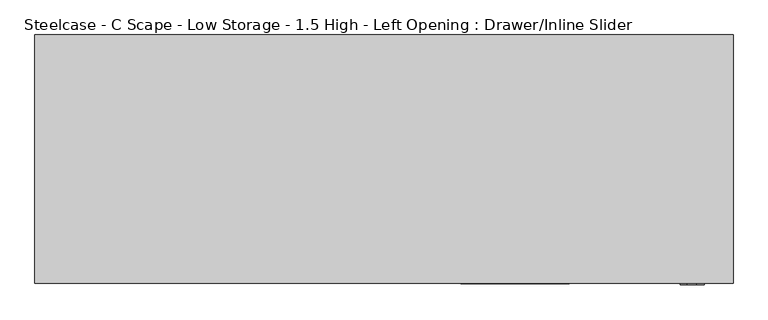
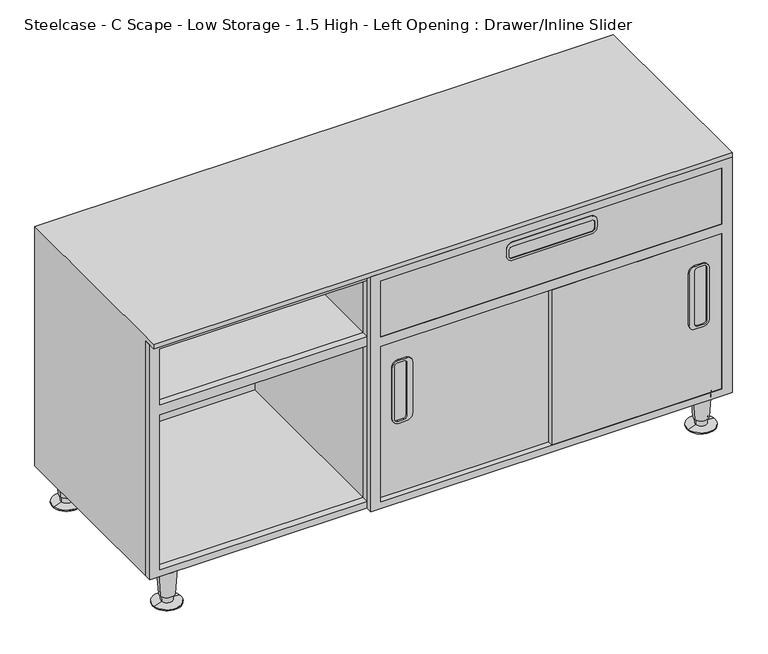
"""IFC4 building model written with IfcOpenShell, lengths in millimetres: furniture geometry, Steelcase - C Scape - Low Storage - 1.5 High - Left Opening : Drawer/Inline Slider."""

from ifc_helpers import new_model, si_unit, point, frame, frame_2d, origin, place, context, project, spatial, polyline, circle_curve, trimmed, segment, composite_curve, outline, extrude, faceted_brep, source, transform, mapped, element, save
from ifc_brep_helpers import plane_surface, cylinder_surface, revolved_surface, advanced_brep


def steelcase_c_scape_low_storage_1_5_high_left_opening_drawer_a826de2d(model_context):
    return source(origin(), model_context, "Body", "SolidModel", [
        extrude(outline(composite_curve([segment(trimmed(circle_curve(frame_2d((373.5986349, 1154.9285742)), 12.6992249), [point((373.5986349, 1167.6277991))], [point((386.2978598, 1154.9285742))], False, "CARTESIAN"), True, "CONTINUOUS"), segment(polyline([(386.2978598, 1154.9285742), (386.2978598, 1138.036582)]), True, "CONTINUOUS"), segment(trimmed(circle_curve(frame_2d((373.5986349, 1138.036582)), 12.6992249), [point((386.2978598, 1138.036582))], [point((373.5986349, 1125.3373572))], False, "CARTESIAN"), True, "CONTINUOUS"), segment(polyline([(373.5986349, 1125.3373572), (259.2970725, 1125.3373572)]), True, "CONTINUOUS"), segment(trimmed(circle_curve(frame_2d((259.2970725, 1138.036582)), 12.6992249), [point((259.2970725, 1125.3373572))], [point((246.5978477, 1138.036582))], False, "CARTESIAN"), True, "CONTINUOUS"), segment(polyline([(246.5978477, 1138.036582), (246.5978477, 1154.9285742)]), True, "CONTINUOUS"), segment(trimmed(circle_curve(frame_2d((259.2970725, 1154.9285742)), 12.6992249), [point((246.5978477, 1154.9285742))], [point((259.2970725, 1167.6277991))], False, "CARTESIAN"), True, "CONTINUOUS"), segment(polyline([(259.2970725, 1167.6277991), (373.5986349, 1167.6277991)]), True, "CONTINUOUS")], self_intersect=False), holes=[composite_curve([segment(trimmed(circle_curve(frame_2d((257.7464949, 1156.4525183)), 6.3499939), [point((257.7464949, 1162.8025122))], [point((251.396501, 1156.4525183))], True, "CARTESIAN"), True, "CONTINUOUS"), segment(polyline([(251.396501, 1156.4525183), (251.396501, 1143.7525122)]), True, "CONTINUOUS"), segment(trimmed(circle_curve(frame_2d((257.7472761, 1143.7525122)), 6.3507751), [point((251.396501, 1143.7525122))], [point((257.7472761, 1137.4017371))], True, "CARTESIAN"), True, "CONTINUOUS"), segment(polyline([(257.7472761, 1137.4017371), (375.0937108, 1137.4017371)]), True, "CONTINUOUS"), segment(trimmed(circle_curve(frame_2d((375.0937108, 1143.7525122)), 6.3507752), [point((375.0937108, 1137.4017371))], [point((381.444486, 1143.7525122))], True, "CARTESIAN"), True, "CONTINUOUS"), segment(polyline([(381.444486, 1143.7525122), (381.444486, 1156.4525364)]), True, "CONTINUOUS"), segment(trimmed(circle_curve(frame_2d((375.0945102, 1156.4525364)), 6.3499758), [point((381.444486, 1156.4525364))], [point((375.0945102, 1162.8025122))], True, "CARTESIAN"), True, "CONTINUOUS"), segment(polyline([(375.0945102, 1162.8025122), (257.7464949, 1162.8025122)]), True, "CONTINUOUS")], self_intersect=False)]), frame((0.0, -436.0336786, 0.0), z_axis=(0.0, 1.0, 0.0), x_axis=(0.0, 0.0, 1.0)), (0.0, 0.0, 1.0), 2.9636786),
        extrude(outline(composite_curve([segment(polyline([(373.5986349, 507.5022009), (259.2970725, 507.5022009)]), True, "CONTINUOUS"), segment(trimmed(circle_curve(frame_2d((259.2970725, 520.2014258)), 12.6992249), [point((259.2970725, 507.5022009))], [point((246.5978477, 520.2014258))], False, "CARTESIAN"), True, "CONTINUOUS"), segment(polyline([(246.5978477, 520.2014258), (246.5978477, 537.093418)]), True, "CONTINUOUS"), segment(trimmed(circle_curve(frame_2d((259.2970725, 537.093418)), 12.6992249), [point((246.5978477, 537.093418))], [point((259.2970725, 549.7926428))], False, "CARTESIAN"), True, "CONTINUOUS"), segment(polyline([(259.2970725, 549.7926428), (373.5986349, 549.7926428)]), True, "CONTINUOUS"), segment(trimmed(circle_curve(frame_2d((373.5986349, 537.093418)), 12.6992249), [point((373.5986349, 549.7926428))], [point((386.2978598, 537.093418))], False, "CARTESIAN"), True, "CONTINUOUS"), segment(polyline([(386.2978598, 537.093418), (386.2978598, 520.2014258)]), True, "CONTINUOUS"), segment(trimmed(circle_curve(frame_2d((373.5986349, 520.2014258)), 12.6992249), [point((386.2978598, 520.2014258))], [point((373.5986349, 507.5022009))], False, "CARTESIAN"), True, "CONTINUOUS")], self_intersect=False), holes=[composite_curve([segment(polyline([(257.7464949, 512.3274878), (375.0945102, 512.3274878)]), True, "CONTINUOUS"), segment(trimmed(circle_curve(frame_2d((375.0945102, 518.6774636)), 6.3499758), [point((375.0945102, 512.3274878))], [point((381.444486, 518.6774636))], True, "CARTESIAN"), True, "CONTINUOUS"), segment(polyline([(381.444486, 518.6774636), (381.444486, 531.3774878)]), True, "CONTINUOUS"), segment(trimmed(circle_curve(frame_2d((375.0937108, 531.3774878)), 6.3507752), [point((381.444486, 531.3774878))], [point((375.0937108, 537.728263))], True, "CARTESIAN"), True, "CONTINUOUS"), segment(polyline([(375.0937108, 537.728263), (257.7472761, 537.7282629)]), True, "CONTINUOUS"), segment(trimmed(circle_curve(frame_2d((257.7472761, 531.3774878)), 6.3507751), [point((257.7472761, 537.7282629))], [point((251.396501, 531.3774878))], True, "CARTESIAN"), True, "CONTINUOUS"), segment(polyline([(251.396501, 531.3774878), (251.396501, 518.6774817)]), True, "CONTINUOUS"), segment(trimmed(circle_curve(frame_2d((257.7464949, 518.6774817)), 6.3499939), [point((251.396501, 518.6774817))], [point((257.7464949, 512.3274878))], True, "CARTESIAN"), True, "CONTINUOUS")], self_intersect=False)]), frame((0.0, -424.7026325, 0.0), z_axis=(0.0, 1.0, 0.0), x_axis=(0.0, 0.0, 1.0)), (0.0, 0.0, 1.0), 3.0582917),
        extrude(outline(polyline([(76.2, 1217.93), (599.4400097, 1217.93), (599.4400097, 457.2), (76.2, 457.2), (76.2, 1217.93)]), holes=[polyline([(91.4201587, 1195.959248), (91.4201587, 478.1549612), (436.8419, 478.1549612), (436.8419, 1195.959248), (91.4201587, 1195.959248)]), polyline([(583.5451587, 478.1549612), (583.5451587, 1195.9717991), (458.7875121, 1195.9717991), (458.7875121, 478.1549612), (583.5451587, 478.1549612)])]), frame((0.0, -433.07, 0.0), z_axis=(0.0, 1.0, 0.0), x_axis=(0.0, 0.0, 1.0)), (0.0, 0.0, 1.0), 13.7159457),
        extrude(outline(polyline([(76.2, 0.0), (76.2, 1217.93), (599.4400097, 1217.93), (599.4400097, 0.0), (76.2, 0.0)]), holes=[polyline([(91.4201587, 20.700907), (436.8419, 20.700907), (436.8419, 457.2), (91.4201587, 457.2), (91.4201587, 20.700907)]), polyline([(583.5451587, 1195.959248), (458.7875121, 1195.959248), (458.7875121, 478.1549612), (583.5451587, 478.1549612), (583.5451587, 1195.959248)]), polyline([(458.7875121, 20.700907), (583.5451587, 20.700907), (583.5451587, 457.2), (458.7875121, 457.2), (458.7875121, 20.700907)]), polyline([(91.4201587, 1195.959248), (91.4201587, 478.1549612), (436.8419, 478.1549612), (436.8419, 1195.959248), (91.4201587, 1195.959248)])]), frame((0.0, -419.3540543, 0.0), z_axis=(0.0, 1.0, 0.0), x_axis=(0.0, 0.0, 1.0)), (0.0, 0.0, 1.0), 14.9860039),
        extrude(outline(composite_curve([segment(trimmed(circle_curve(frame_2d((560.7050073, 755.3322442)), 12.7), [point((573.4050073, 755.3322442))], [point((560.7050073, 742.6322442))], False, "CARTESIAN"), True, "CONTINUOUS"), segment(polyline([(560.7050073, 742.6322442), (546.1000363, 742.6322442)]), True, "CONTINUOUS"), segment(trimmed(circle_curve(frame_2d((546.1000363, 755.3322442)), 12.7), [point((546.1000363, 742.6322442))], [point((533.4000363, 755.3322442))], False, "CARTESIAN"), True, "CONTINUOUS"), segment(polyline([(533.4000363, 755.3322442), (533.4000363, 837.565), (533.4000363, 919.7977558)]), True, "CONTINUOUS"), segment(trimmed(circle_curve(frame_2d((546.1000363, 919.7977558)), 12.7), [point((533.4000363, 919.7977558))], [point((546.1000363, 932.4977558))], False, "CARTESIAN"), True, "CONTINUOUS"), segment(polyline([(546.1000363, 932.4977558), (560.7050073, 932.4977558)]), True, "CONTINUOUS"), segment(trimmed(circle_curve(frame_2d((560.7050073, 919.7977558)), 12.7), [point((560.7050073, 932.4977558))], [point((573.4050073, 919.7977558))], False, "CARTESIAN"), True, "CONTINUOUS"), segment(polyline([(573.4050073, 919.7977558), (573.4050073, 837.565), (573.4050073, 755.3322442)]), True, "CONTINUOUS")], self_intersect=False), holes=[composite_curve([segment(trimmed(circle_curve(frame_2d((557.2760257, 753.8098565)), 6.35), [point((557.2760257, 747.4598565))], [point((563.6260257, 753.8098565))], True, "CARTESIAN"), True, "CONTINUOUS"), segment(polyline([(563.6260257, 753.8098565), (563.6260257, 837.565), (563.6260257, 921.3201435)]), True, "CONTINUOUS"), segment(trimmed(circle_curve(frame_2d((557.2760257, 921.3201435)), 6.35), [point((563.6260257, 921.3201435))], [point((557.2760257, 927.6701435))], True, "CARTESIAN"), True, "CONTINUOUS"), segment(polyline([(557.2760257, 927.6701435), (544.5760136, 927.6701435)]), True, "CONTINUOUS"), segment(trimmed(circle_curve(frame_2d((544.5760136, 921.3201435)), 6.35), [point((544.5760136, 927.6701435))], [point((538.2260136, 921.3201435))], True, "CARTESIAN"), True, "CONTINUOUS"), segment(polyline([(538.2260136, 921.3201435), (538.2260136, 837.565), (538.2260136, 753.8098565)]), True, "CONTINUOUS"), segment(trimmed(circle_curve(frame_2d((544.5760136, 753.8098565)), 6.35), [point((538.2260136, 753.8098565))], [point((544.5760136, 747.4598565))], True, "CARTESIAN"), True, "CONTINUOUS"), segment(polyline([(544.5760136, 747.4598565), (557.2760257, 747.4598565)]), True, "CONTINUOUS")], self_intersect=False)]), frame((0.0, -434.34, 0.0), z_axis=(0.0, 1.0, 0.0), x_axis=(0.0, 0.0, 1.0)), (0.0, 0.0, 1.0), 6.35),
        advanced_brep(
        [(1190.0494568, -31.5218435, 76.2), (1152.3877179, -37.2840847, 76.2), (1171.2185874, -34.4029641, 76.2), (1186.0991088, -32.1262463, 19.05), (1156.3380659, -36.6796819, 19.05), (1183.6695219, -32.4979728, 19.05), (1158.7676529, -36.3079555, 19.05), (1182.9807524, -32.6033544, 5.7545598), (1159.4564224, -36.2025738, 5.7545598), (1200.3296359, -29.9489775, 2.5119506), (1142.1075389, -38.8569507, 2.5119506), (1200.3296359, -29.9489775, 0.0), (1142.1075389, -38.8569507, 0.0), (1171.2185874, -34.4029641, 0.0)],
        [
            (0, 1, circle_curve(frame((1171.2185874, -34.4029641, 76.2), z_axis=(0.0, 0.0, 1.0), x_axis=(0.0, -1.0, 0.0)), 19.05)),
            (1, 2),
            (2, 0),
            (1, 0, circle_curve(frame((1171.2185874, -34.4029641, 76.2), z_axis=(0.0, 0.0, 1.0), x_axis=(0.0, -1.0, 0.0)), 19.05)),
            (3, 4, circle_curve(frame((1171.2185874, -34.4029641, 19.05), z_axis=(0.0, 0.0, 1.0), x_axis=(0.0, -1.0, 0.0)), 15.0536827)),
            (4, 1),
            (0, 3),
            (4, 3, circle_curve(frame((1171.2185874, -34.4029641, 19.05), z_axis=(0.0, 0.0, 1.0), x_axis=(0.0, -1.0, 0.0)), 15.0536827)),
            (5, 6, circle_curve(frame((1171.2185874, -34.4029641, 19.05), z_axis=(0.0, 0.0, 1.0), x_axis=(0.0, -1.0, 0.0)), 12.5958232)),
            (6, 4),
            (3, 5),
            (6, 5, circle_curve(frame((1171.2185874, -34.4029641, 19.05), z_axis=(0.0, 0.0, 1.0), x_axis=(0.0, -1.0, 0.0)), 12.5958232)),
            (7, 8, circle_curve(frame((1171.2185874, -34.4029641, 5.7545598), z_axis=(0.0, 0.0, 1.0), x_axis=(0.0, -1.0, 0.0)), 11.8990387)),
            (8, 6),
            (5, 7),
            (8, 7, circle_curve(frame((1171.2185874, -34.4029641, 5.7545598), z_axis=(0.0, 0.0, 1.0), x_axis=(0.0, -1.0, 0.0)), 11.8990387)),
            (9, 10, circle_curve(frame((1171.2185874, -34.4029641, 2.5119506), z_axis=(0.0, 0.0, 1.0), x_axis=(0.0, -1.0, 0.0)), 29.4498071)),
            (10, 8),
            (7, 9),
            (10, 9, circle_curve(frame((1171.2185874, -34.4029641, 2.5119506), z_axis=(0.0, 0.0, 1.0), x_axis=(0.0, -1.0, 0.0)), 29.4498071)),
            (11, 12, circle_curve(frame((1171.2185874, -34.4029641, 0.0), z_axis=(0.0, 0.0, 1.0), x_axis=(0.0, -1.0, 0.0)), 29.4498071)),
            (12, 10),
            (9, 11),
            (12, 11, circle_curve(frame((1171.2185874, -34.4029641, 0.0), z_axis=(0.0, 0.0, 1.0), x_axis=(0.0, -1.0, 0.0)), 29.4498071)),
            (13, 12),
            (11, 13),
        ],
        [
            plane_surface(frame((1171.2185874, -34.4029641, 76.2), z_axis=(0.0, 0.0, 1.0), x_axis=(0.0, -1.0, 0.0))),
            revolved_surface(polyline([(1171.2185874, -53.4529641, 76.2), (1171.2185874, -49.4566468, 19.05)]), (1171.2185874, -34.4029641, 25.4), (0.0, 0.0, -1.0)),
            plane_surface(frame((1171.2185874, -34.4029641, 19.05), z_axis=(0.0, 0.0, -1.0), x_axis=(0.0, -1.0, 0.0))),
            revolved_surface(polyline([(1171.2185874, -46.9987873, 19.05), (1171.2185874, -46.3020028, 5.7545598)]), (1171.2185874, -34.4029641, 25.4), (0.0, 0.0, -1.0)),
            revolved_surface(polyline([(1171.2185874, -46.3020028, 5.7545598), (1171.2185874, -63.8527712, 2.5119506)]), (1171.2185874, -34.4029641, 25.4), (0.0, 0.0, -1.0)),
            cylinder_surface(frame((1171.2185874, -34.4029641, 25.4), z_axis=(0.0, 0.0, -1.0), x_axis=(0.0, -1.0, 0.0)), 29.4498071),
            plane_surface(frame((1171.2185874, -34.4029641, 0.0), z_axis=(0.0, 0.0, -1.0), x_axis=(0.0, -1.0, 0.0))),
        ],
        [
            (0, [[1, 2, 3]]),
            (0, [[4, -3, -2]]),
            (1, [[5, 6, -1, 7]]),
            (1, [[8, -7, -4, -6]]),
            (2, [[9, 10, -5, 11]]),
            (2, [[12, -11, -8, -10]]),
            (3, [[13, 14, -9, 15]]),
            (3, [[16, -15, -12, -14]]),
            (4, [[17, 18, -13, 19]]),
            (4, [[20, -19, -16, -18]]),
            (5, [[21, 22, -17, 23]]),
            (5, [[24, -23, -20, -22]]),
            (6, [[25, -21, 26]]),
            (6, [[-26, -24, -25]]),
        ],
    ),
        advanced_brep(
        [(1190.0494568, -397.1702762, 76.2), (1152.3877179, -402.9325174, 76.2), (1171.2185874, -400.0513968, 76.2), (1186.0991088, -397.774679, 19.05), (1156.3380659, -402.3281146, 19.05), (1183.6695219, -398.1464055, 19.05), (1158.7676529, -401.9563882, 19.05), (1182.9807524, -398.2517871, 5.7545598), (1159.4564224, -401.8510065, 5.7545598), (1200.3296359, -395.5974102, 2.5119506), (1142.1075389, -404.5053834, 2.5119506), (1200.3296359, -395.5974102, 0.0), (1142.1075389, -404.5053834, 0.0), (1171.2185874, -400.0513968, 0.0)],
        [
            (0, 1, circle_curve(frame((1171.2185874, -400.0513968, 76.2), z_axis=(0.0, 0.0, 1.0), x_axis=(0.0, -1.0, 0.0)), 19.05)),
            (1, 2),
            (2, 0),
            (1, 0, circle_curve(frame((1171.2185874, -400.0513968, 76.2), z_axis=(0.0, 0.0, 1.0), x_axis=(0.0, -1.0, 0.0)), 19.05)),
            (3, 4, circle_curve(frame((1171.2185874, -400.0513968, 19.05), z_axis=(0.0, 0.0, 1.0), x_axis=(0.0, -1.0, 0.0)), 15.0536827)),
            (4, 1),
            (0, 3),
            (4, 3, circle_curve(frame((1171.2185874, -400.0513968, 19.05), z_axis=(0.0, 0.0, 1.0), x_axis=(0.0, -1.0, 0.0)), 15.0536827)),
            (5, 6, circle_curve(frame((1171.2185874, -400.0513968, 19.05), z_axis=(0.0, 0.0, 1.0), x_axis=(0.0, -1.0, 0.0)), 12.5958232)),
            (6, 4),
            (3, 5),
            (6, 5, circle_curve(frame((1171.2185874, -400.0513968, 19.05), z_axis=(0.0, 0.0, 1.0), x_axis=(0.0, -1.0, 0.0)), 12.5958232)),
            (7, 8, circle_curve(frame((1171.2185874, -400.0513968, 5.7545598), z_axis=(0.0, 0.0, 1.0), x_axis=(0.0, -1.0, 0.0)), 11.8990387)),
            (8, 6),
            (5, 7),
            (8, 7, circle_curve(frame((1171.2185874, -400.0513968, 5.7545598), z_axis=(0.0, 0.0, 1.0), x_axis=(0.0, -1.0, 0.0)), 11.8990387)),
            (9, 10, circle_curve(frame((1171.2185874, -400.0513968, 2.5119506), z_axis=(0.0, 0.0, 1.0), x_axis=(0.0, -1.0, 0.0)), 29.4498071)),
            (10, 8),
            (7, 9),
            (10, 9, circle_curve(frame((1171.2185874, -400.0513968, 2.5119506), z_axis=(0.0, 0.0, 1.0), x_axis=(0.0, -1.0, 0.0)), 29.4498071)),
            (11, 12, circle_curve(frame((1171.2185874, -400.0513968, 0.0), z_axis=(0.0, 0.0, 1.0), x_axis=(0.0, -1.0, 0.0)), 29.4498071)),
            (12, 10),
            (9, 11),
            (12, 11, circle_curve(frame((1171.2185874, -400.0513968, 0.0), z_axis=(0.0, 0.0, 1.0), x_axis=(0.0, -1.0, 0.0)), 29.4498071)),
            (13, 12),
            (11, 13),
        ],
        [
            plane_surface(frame((1171.2185874, -400.0513968, 76.2), z_axis=(0.0, 0.0, 1.0), x_axis=(0.0, -1.0, 0.0))),
            revolved_surface(polyline([(1171.2185874, -419.1013968, 76.2), (1171.2185874, -415.1050795, 19.05)]), (1171.2185874, -400.0513968, 25.4), (0.0, 0.0, -1.0)),
            plane_surface(frame((1171.2185874, -400.0513968, 19.05), z_axis=(0.0, 0.0, -1.0), x_axis=(0.0, -1.0, 0.0))),
            revolved_surface(polyline([(1171.2185874, -412.64722, 19.05), (1171.2185874, -411.9504355, 5.7545598)]), (1171.2185874, -400.0513968, 25.4), (0.0, 0.0, -1.0)),
            revolved_surface(polyline([(1171.2185874, -411.9504355, 5.7545598), (1171.2185874, -429.5012039, 2.5119506)]), (1171.2185874, -400.0513968, 25.4), (0.0, 0.0, -1.0)),
            cylinder_surface(frame((1171.2185874, -400.0513968, 25.4), z_axis=(0.0, 0.0, -1.0), x_axis=(0.0, -1.0, 0.0)), 29.4498071),
            plane_surface(frame((1171.2185874, -400.0513968, 0.0), z_axis=(0.0, 0.0, -1.0), x_axis=(0.0, -1.0, 0.0))),
        ],
        [
            (0, [[1, 2, 3]]),
            (0, [[4, -3, -2]]),
            (1, [[5, 6, -1, 7]]),
            (1, [[8, -7, -4, -6]]),
            (2, [[9, 10, -5, 11]]),
            (2, [[12, -11, -8, -10]]),
            (3, [[13, 14, -9, 15]]),
            (3, [[16, -15, -12, -14]]),
            (4, [[17, 18, -13, 19]]),
            (4, [[20, -19, -16, -18]]),
            (5, [[21, 22, -17, 23]]),
            (5, [[24, -23, -20, -22]]),
            (6, [[25, -21, 26]]),
            (6, [[-26, -24, -25]]),
        ],
    ),
        advanced_brep(
        [(65.6621195, -397.1702762, 76.2), (28.0003805, -402.9325174, 76.2), (46.83125, -400.0513968, 76.2), (61.7117714, -397.774679, 19.05), (31.9507286, -402.3281146, 19.05), (59.2821845, -398.1464055, 19.05), (34.3803155, -401.9563882, 19.05), (58.593415, -398.2517871, 5.7545598), (35.069085, -401.8510065, 5.7545598), (75.9422985, -395.5974102, 2.5119506), (17.7202015, -404.5053834, 2.5119506), (75.9422985, -395.5974102, 0.0), (17.7202015, -404.5053834, 0.0), (46.83125, -400.0513968, 0.0)],
        [
            (0, 1, circle_curve(frame((46.83125, -400.0513968, 76.2), z_axis=(0.0, 0.0, 1.0), x_axis=(0.0, -1.0, 0.0)), 19.05)),
            (1, 2),
            (2, 0),
            (1, 0, circle_curve(frame((46.83125, -400.0513968, 76.2), z_axis=(0.0, 0.0, 1.0), x_axis=(0.0, -1.0, 0.0)), 19.05)),
            (3, 4, circle_curve(frame((46.83125, -400.0513968, 19.05), z_axis=(0.0, 0.0, 1.0), x_axis=(0.0, -1.0, 0.0)), 15.0536827)),
            (4, 1),
            (0, 3),
            (4, 3, circle_curve(frame((46.83125, -400.0513968, 19.05), z_axis=(0.0, 0.0, 1.0), x_axis=(0.0, -1.0, 0.0)), 15.0536827)),
            (5, 6, circle_curve(frame((46.83125, -400.0513968, 19.05), z_axis=(0.0, 0.0, 1.0), x_axis=(0.0, -1.0, 0.0)), 12.5958232)),
            (6, 4),
            (3, 5),
            (6, 5, circle_curve(frame((46.83125, -400.0513968, 19.05), z_axis=(0.0, 0.0, 1.0), x_axis=(0.0, -1.0, 0.0)), 12.5958232)),
            (7, 8, circle_curve(frame((46.83125, -400.0513968, 5.7545598), z_axis=(0.0, 0.0, 1.0), x_axis=(0.0, -1.0, 0.0)), 11.8990387)),
            (8, 6),
            (5, 7),
            (8, 7, circle_curve(frame((46.83125, -400.0513968, 5.7545598), z_axis=(0.0, 0.0, 1.0), x_axis=(0.0, -1.0, 0.0)), 11.8990387)),
            (9, 10, circle_curve(frame((46.83125, -400.0513968, 2.5119506), z_axis=(0.0, 0.0, 1.0), x_axis=(0.0, -1.0, 0.0)), 29.4498071)),
            (10, 8),
            (7, 9),
            (10, 9, circle_curve(frame((46.83125, -400.0513968, 2.5119506), z_axis=(0.0, 0.0, 1.0), x_axis=(0.0, -1.0, 0.0)), 29.4498071)),
            (11, 12, circle_curve(frame((46.83125, -400.0513968, 0.0), z_axis=(0.0, 0.0, 1.0), x_axis=(0.0, -1.0, 0.0)), 29.4498071)),
            (12, 10),
            (9, 11),
            (12, 11, circle_curve(frame((46.83125, -400.0513968, 0.0), z_axis=(0.0, 0.0, 1.0), x_axis=(0.0, -1.0, 0.0)), 29.4498071)),
            (13, 12),
            (11, 13),
        ],
        [
            plane_surface(frame((46.83125, -400.0513968, 76.2), z_axis=(0.0, 0.0, 1.0), x_axis=(0.0, -1.0, 0.0))),
            revolved_surface(polyline([(46.83125, -419.1013968, 76.2), (46.83125, -415.1050795, 19.05)]), (46.83125, -400.0513968, 25.4), (0.0, 0.0, -1.0)),
            plane_surface(frame((46.83125, -400.0513968, 19.05), z_axis=(0.0, 0.0, -1.0), x_axis=(0.0, -1.0, 0.0))),
            revolved_surface(polyline([(46.83125, -412.64722, 19.05), (46.83125, -411.9504355, 5.7545598)]), (46.83125, -400.0513968, 25.4), (0.0, 0.0, -1.0)),
            revolved_surface(polyline([(46.83125, -411.9504355, 5.7545598), (46.83125, -429.5012039, 2.5119506)]), (46.83125, -400.0513968, 25.4), (0.0, 0.0, -1.0)),
            cylinder_surface(frame((46.83125, -400.0513968, 25.4), z_axis=(0.0, 0.0, -1.0), x_axis=(0.0, -1.0, 0.0)), 29.4498071),
            plane_surface(frame((46.83125, -400.0513968, 0.0), z_axis=(0.0, 0.0, -1.0), x_axis=(0.0, -1.0, 0.0))),
        ],
        [
            (0, [[1, 2, 3]]),
            (0, [[4, -3, -2]]),
            (1, [[5, 6, -1, 7]]),
            (1, [[8, -7, -4, -6]]),
            (2, [[9, 10, -5, 11]]),
            (2, [[12, -11, -8, -10]]),
            (3, [[13, 14, -9, 15]]),
            (3, [[16, -15, -12, -14]]),
            (4, [[17, 18, -13, 19]]),
            (4, [[20, -19, -16, -18]]),
            (5, [[21, 22, -17, 23]]),
            (5, [[24, -23, -20, -22]]),
            (6, [[25, -21, 26]]),
            (6, [[-26, -24, -25]]),
        ],
    ),
        advanced_brep(
        [(65.6621195, -31.5218435, 76.2), (28.0003805, -37.2840847, 76.2), (46.83125, -34.4029641, 76.2), (61.7117714, -32.1262463, 19.05), (31.9507286, -36.6796819, 19.05), (59.2821845, -32.4979728, 19.05), (34.3803155, -36.3079555, 19.05), (58.593415, -32.6033544, 5.7545598), (35.069085, -36.2025738, 5.7545598), (75.9422985, -29.9489775, 2.5119506), (17.7202015, -38.8569507, 2.5119506), (75.9422985, -29.9489775, 0.0), (17.7202015, -38.8569507, 0.0), (46.83125, -34.4029641, 0.0)],
        [
            (0, 1, circle_curve(frame((46.83125, -34.4029641, 76.2), z_axis=(0.0, 0.0, 1.0), x_axis=(0.0, -1.0, 0.0)), 19.05)),
            (1, 2),
            (2, 0),
            (1, 0, circle_curve(frame((46.83125, -34.4029641, 76.2), z_axis=(0.0, 0.0, 1.0), x_axis=(0.0, -1.0, 0.0)), 19.05)),
            (3, 4, circle_curve(frame((46.83125, -34.4029641, 19.05), z_axis=(0.0, 0.0, 1.0), x_axis=(0.0, -1.0, 0.0)), 15.0536827)),
            (4, 1),
            (0, 3),
            (4, 3, circle_curve(frame((46.83125, -34.4029641, 19.05), z_axis=(0.0, 0.0, 1.0), x_axis=(0.0, -1.0, 0.0)), 15.0536827)),
            (5, 6, circle_curve(frame((46.83125, -34.4029641, 19.05), z_axis=(0.0, 0.0, 1.0), x_axis=(0.0, -1.0, 0.0)), 12.5958232)),
            (6, 4),
            (3, 5),
            (6, 5, circle_curve(frame((46.83125, -34.4029641, 19.05), z_axis=(0.0, 0.0, 1.0), x_axis=(0.0, -1.0, 0.0)), 12.5958232)),
            (7, 8, circle_curve(frame((46.83125, -34.4029641, 5.7545598), z_axis=(0.0, 0.0, 1.0), x_axis=(0.0, -1.0, 0.0)), 11.8990387)),
            (8, 6),
            (5, 7),
            (8, 7, circle_curve(frame((46.83125, -34.4029641, 5.7545598), z_axis=(0.0, 0.0, 1.0), x_axis=(0.0, -1.0, 0.0)), 11.8990387)),
            (9, 10, circle_curve(frame((46.83125, -34.4029641, 2.5119506), z_axis=(0.0, 0.0, 1.0), x_axis=(0.0, -1.0, 0.0)), 29.4498071)),
            (10, 8),
            (7, 9),
            (10, 9, circle_curve(frame((46.83125, -34.4029641, 2.5119506), z_axis=(0.0, 0.0, 1.0), x_axis=(0.0, -1.0, 0.0)), 29.4498071)),
            (11, 12, circle_curve(frame((46.83125, -34.4029641, 0.0), z_axis=(0.0, 0.0, 1.0), x_axis=(0.0, -1.0, 0.0)), 29.4498071)),
            (12, 10),
            (9, 11),
            (12, 11, circle_curve(frame((46.83125, -34.4029641, 0.0), z_axis=(0.0, 0.0, 1.0), x_axis=(0.0, -1.0, 0.0)), 29.4498071)),
            (13, 12),
            (11, 13),
        ],
        [
            plane_surface(frame((46.83125, -34.4029641, 76.2), z_axis=(0.0, 0.0, 1.0), x_axis=(0.0, -1.0, 0.0))),
            revolved_surface(polyline([(46.83125, -53.4529641, 76.2), (46.83125, -49.4566468, 19.05)]), (46.83125, -34.4029641, 25.4), (0.0, 0.0, -1.0)),
            plane_surface(frame((46.83125, -34.4029641, 19.05), z_axis=(0.0, 0.0, -1.0), x_axis=(0.0, -1.0, 0.0))),
            revolved_surface(polyline([(46.83125, -46.9987873, 19.05), (46.83125, -46.3020028, 5.7545598)]), (46.83125, -34.4029641, 25.4), (0.0, 0.0, -1.0)),
            revolved_surface(polyline([(46.83125, -46.3020028, 5.7545598), (46.83125, -63.8527712, 2.5119506)]), (46.83125, -34.4029641, 25.4), (0.0, 0.0, -1.0)),
            cylinder_surface(frame((46.83125, -34.4029641, 25.4), z_axis=(0.0, 0.0, -1.0), x_axis=(0.0, -1.0, 0.0)), 29.4498071),
            plane_surface(frame((46.83125, -34.4029641, 0.0), z_axis=(0.0, 0.0, -1.0), x_axis=(0.0, -1.0, 0.0))),
        ],
        [
            (0, [[1, 2, 3]]),
            (0, [[4, -3, -2]]),
            (1, [[5, 6, -1, 7]]),
            (1, [[8, -7, -4, -6]]),
            (2, [[9, 10, -5, 11]]),
            (2, [[12, -11, -8, -10]]),
            (3, [[13, 14, -9, 15]]),
            (3, [[16, -15, -12, -14]]),
            (4, [[17, 18, -13, 19]]),
            (4, [[20, -19, -16, -18]]),
            (5, [[21, 22, -17, 23]]),
            (5, [[24, -23, -20, -22]]),
            (6, [[25, -21, 26]]),
            (6, [[-26, -24, -25]]),
        ],
    ),
        faceted_brep([(0.0, 0.0, 76.2), (0.0, -404.3680504, 76.2), (0.0, -404.3680504, 599.4400097), (0.0, -433.07, 599.4400097), (0.0, -433.07, 609.6), (0.0, 0.0, 609.6), (1217.93, -404.3680504, 76.2), (1217.93, -404.3680504, 599.4400097), (1195.959248, -404.3680504, 599.4400097), (1195.959248, -404.3680504, 458.7875121), (463.5487203, -404.3680504, 458.7875121), (463.5487203, -404.3680504, 599.4400097), (457.2, -404.3680504, 599.4400097), (457.2, -404.3680504, 458.7875121), (20.700907, -404.3680504, 458.7875121), (20.700907, -404.3680504, 599.4400097), (1195.959248, -404.3680504, 91.4201587), (463.5487203, -404.3680504, 91.4201587), (463.5487203, -404.3680504, 436.8419), (1195.959248, -404.3680504, 436.8419), (457.2, -404.3680504, 91.4201587), (20.700907, -404.3680504, 91.4201587), (20.700907, -404.3680504, 436.8419), (457.2, -404.3680504, 436.8419), (20.700907, -9.525, 91.4201587), (20.700907, -9.525, 436.8419), (20.700907, -9.525, 458.7875121), (20.700907, -9.525, 599.4400097), (457.2, -9.525, 91.4201587), (457.2, -9.525, 436.8419), (457.2, -9.525, 458.7875121), (457.2, -9.525, 599.4400097), (463.5487203, -9.525, 91.4201587), (463.5487203, -9.525, 436.8419), (463.5487203, -9.525, 458.7875121), (463.5487203, -9.525, 599.4400097), (1195.959248, -9.525, 91.4201587), (1195.959248, -9.525, 436.8419), (1195.959248, -9.525, 458.7875121), (1195.959248, -9.525, 599.4400097), (1217.93, 0.0, 76.2), (1217.93, 0.0, 609.6), (1217.93, -433.07, 609.6), (1217.93, -433.07, 599.4400097)], [[[0, 1, 2, 3, 4, 5]], [[1, 6, 7, 8, 9, 10, 11, 12, 13, 14, 15, 2], [16, 17, 18, 19], [20, 21, 22, 23]], [[21, 24, 25, 22]], [[14, 26, 27, 15]], [[24, 28, 29, 25]], [[26, 30, 31, 27]], [[28, 20, 23, 29]], [[30, 13, 12, 31]], [[17, 32, 33, 18]], [[10, 34, 35, 11]], [[32, 36, 37, 33]], [[34, 38, 39, 35]], [[36, 16, 19, 37]], [[38, 9, 8, 39]], [[6, 40, 41, 42, 43, 7]], [[41, 40, 0, 5]], [[17, 16, 36, 32]], [[21, 20, 28, 24]], [[0, 40, 6, 1]], [[10, 9, 38, 34]], [[14, 13, 30, 26]], [[19, 18, 33, 37]], [[23, 22, 25, 29]], [[5, 4, 42, 41]], [[43, 3, 2, 15, 27, 31, 12, 11, 35, 39, 8, 7]], [[42, 4, 3, 43]]]),
        extrude(outline(polyline([(457.2, -426.7186111), (1217.93, -426.7186111), (1217.93, -433.07), (457.2, -433.07), (457.2, -426.7186111)])), frame((0.0, 0.0, 458.7875121), z_axis=(0.0, 0.0, 1.0), x_axis=(1.0, 0.0, 0.0)), (0.0, 0.0, 1.0), 140.6524976),
        extrude(outline(polyline([(837.565, -415.2912402), (837.565, -421.6443408), (463.5487203, -421.6443408), (463.5487203, -415.2912402), (837.565, -415.2912402)])), frame((0.0, 0.0, 91.4201587), z_axis=(0.0, 0.0, 1.0), x_axis=(1.0, 0.0, 0.0)), (0.0, 0.0, 1.0), 345.4217413),
        extrude(outline(polyline([(837.565, -433.07), (837.565, -421.6443408), (1195.959248, -421.6443408), (1195.959248, -433.07), (837.565, -433.07)])), frame((0.0, 0.0, 92.7100024), z_axis=(0.0, 0.0, 1.0), x_axis=(1.0, 0.0, 0.0)), (0.0, 0.0, 1.0), 344.1318976),
    ])


if __name__ == "__main__":
    model = new_model("IFC4")
    model_context = context("Model", 3, world=origin())
    ifc_project = project(units=[si_unit("LENGTHUNIT", "METRE", prefix="MILLI")], contexts=[model_context])
    site = spatial("IfcSite", under=ifc_project)
    building = spatial("IfcBuilding", under=site)
    placement = place(None, origin())
    steelcase_c_scape_low_storage_1_5_high_left_opening_drawer_shape = steelcase_c_scape_low_storage_1_5_high_left_opening_drawer_a826de2d(model_context)
    element("IfcFurniture", 1, ObjectType="Steelcase - C Scape - Low Storage - 1.5 High - Left Opening : Drawer/Inline Slider", at=placement, inside=building, context=model_context, shape_type="MappedRepresentation", body=[
        mapped(steelcase_c_scape_low_storage_1_5_high_left_opening_drawer_shape, transform((0.0, 0.0, 0.0), x_axis=(1.0, 0.0, 0.0), y_axis=(0.0, 1.0, 0.0), z_axis=(0.0, 0.0, 1.0))),
    ])
    save(model, "model.ifc")
